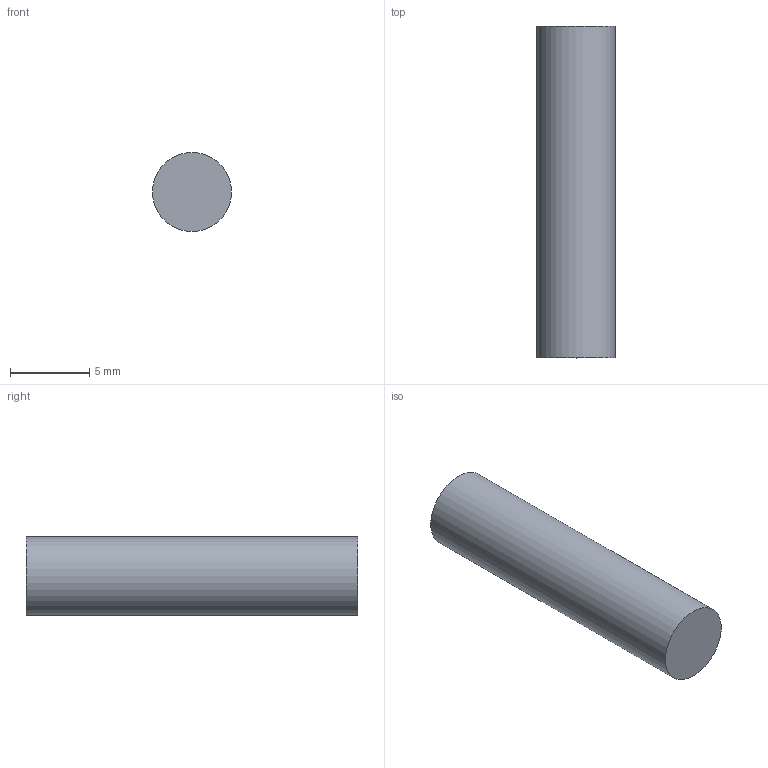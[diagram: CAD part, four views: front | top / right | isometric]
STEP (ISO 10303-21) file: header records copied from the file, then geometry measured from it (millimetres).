
FILE_DESCRIPTION(('Open CASCADE Model'),'2;1');
FILE_NAME('Open CASCADE Shape Model','2026-10-20T13:19:55',('Author'),( 'Open CASCADE'),'Open CASCADE STEP processor 7.9','Open CASCADE 7.9' ,'Unknown');
FILE_SCHEMA(('AUTOMOTIVE_DESIGN { 1 0 10303 214 1 1 1 1 }'));
Length unit declared in the file: millimetre
Products named in the file (1): Open CASCADE STEP translator 7.9 84
Bounding box: 5 x 21 x 5 mm (x, y, z)
Volume: 412.3 mm3; surface area: 369.1 mm2
Topology: 1 solids, 1 shells, 3 faces, 3 edges, 2 vertices
Faces by surface type: plane 2, cylinder 1
Full cylindrical faces by diameter (mm): 5 x1
Entity records: 108 total; most frequent: DIRECTION 19, CARTESIAN_POINT 15, AXIS2_PLACEMENT_3D 6, ORIENTED_EDGE 6, PCURVE 6, DEFINITIONAL_REPRESENTATION 6, LINE 5, VECTOR 5
